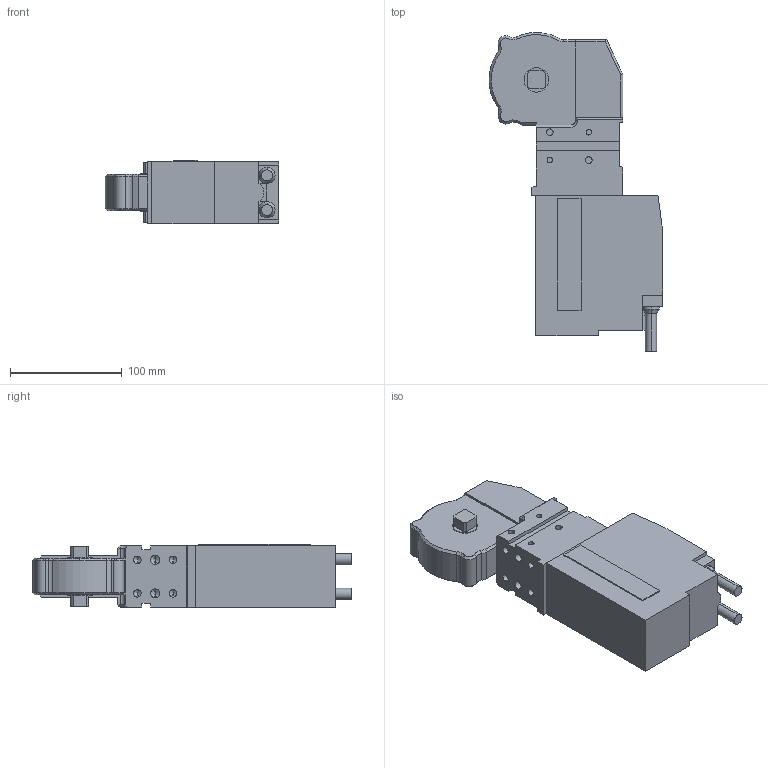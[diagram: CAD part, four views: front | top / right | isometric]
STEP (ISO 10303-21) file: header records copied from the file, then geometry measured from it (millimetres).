
FILE_DESCRIPTION((''),'2;1');
FILE_NAME('001_DESTACO_92W_1_ASM','2024-03-07T',('SYSTEM'),(''),'PRO/ENGINEER BY PARAMETRIC TECHNOLOGY CORPORATION, 2016360','PRO/ENGINEER BY PARAMETRIC TECHNOLOGY CORPORATION, 2016360','');
FILE_SCHEMA(('AUTOMOTIVE_DESIGN { 1 0 10303 214 1 1 1 1 }'));
Length unit declared in the file: millimetre
Products named in the file (5): 8GL_8GR-242-1_8MA-469-1; 92W-1_MOTOR_01_01; 8BF-676-1; SET_SCREW; 001_DESTACO_92W_1_ASM
Assembly tree (4 placements, depth 2):
  001_DESTACO_92W_1_ASM
    8GL_8GR-242-1_8MA-469-1
    92W-1_MOTOR_01_01
    8BF-676-1
    SET_SCREW
Bounding box: 156 x 285.96 x 57 mm (x, y, z)
Volume: 1337282.6 mm3; surface area: 119088.9 mm2
Topology: 4 solids, 4 shells, 245 faces, 600 edges, 374 vertices
Faces by surface type: plane 113, cylinder 83, cone 49
Entity records: 9579 total; most frequent: DIRECTION 1298, CARTESIAN_POINT 1233, ORIENTED_EDGE 1168, PRESENTATION_STYLE_ASSIGNMENT 598, EDGE_CURVE 584, STYLED_ITEM 531, CURVE_STYLE 528, AXIS2_PLACEMENT_3D 462
